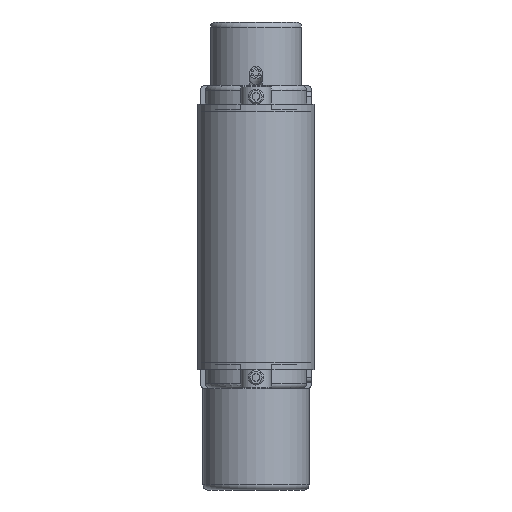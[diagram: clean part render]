
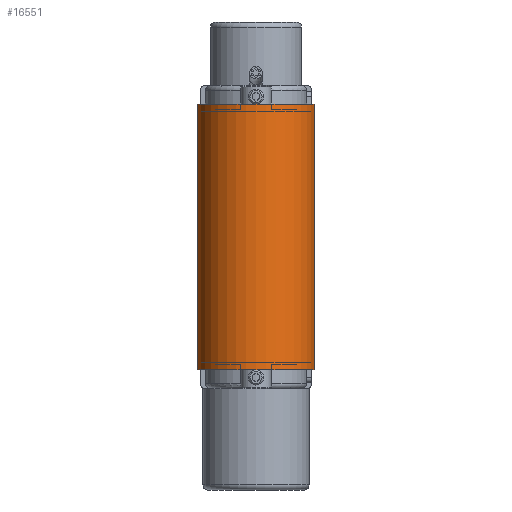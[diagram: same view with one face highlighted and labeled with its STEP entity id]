
A CAD part, front view. The second image highlights one B-rep face of the part: STEP entity #16551.
In plain terms, the highlighted cylindrical face has radius 23.3 mm (diameter 46.6 mm), a partial arc.
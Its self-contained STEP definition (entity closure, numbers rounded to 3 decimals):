
#1198=FACE_OUTER_BOUND('',#2113,.T.);
#2113=EDGE_LOOP('',(#11174,#11175,#11176,#11177));
#3162=LINE('',#24656,#4432);
#3163=LINE('',#24660,#4433);
#4432=VECTOR('',#19823,10.);
#4433=VECTOR('',#19828,10.);
#5649=CIRCLE('',#17631,23.3);
#5652=CIRCLE('',#17637,23.3);
#6634=VERTEX_POINT('',#24639);
#6635=VERTEX_POINT('',#24640);
#6640=VERTEX_POINT('',#24654);
#6641=VERTEX_POINT('',#24658);
#8393=EDGE_CURVE('',#6634,#6635,#5649,.T.);
#8401=EDGE_CURVE('',#6640,#6635,#3162,.T.);
#8402=EDGE_CURVE('',#6640,#6641,#5652,.T.);
#8403=EDGE_CURVE('',#6634,#6641,#3163,.T.);
#11174=ORIENTED_EDGE('',*,*,#8402,.T.);
#11175=ORIENTED_EDGE('',*,*,#8403,.F.);
#11176=ORIENTED_EDGE('',*,*,#8393,.T.);
#11177=ORIENTED_EDGE('',*,*,#8401,.F.);
#15272=CYLINDRICAL_SURFACE('',#17636,23.3);
#16551=ADVANCED_FACE('',(#1198),#15272,.T.);
#17631=AXIS2_PLACEMENT_3D('',#24641,#19808,#19809);
#17636=AXIS2_PLACEMENT_3D('',#24657,#19824,#19825);
#17637=AXIS2_PLACEMENT_3D('',#24659,#19826,#19827);
#19808=DIRECTION('center_axis',(0.,0.,
-1.));
#19809=DIRECTION('ref_axis',(-1.,0.,0.));
#19823=DIRECTION('',(0.,0.,1.));
#19824=DIRECTION('center_axis',(0.,0.,
-1.));
#19825=DIRECTION('ref_axis',(-1.,0.,0.));
#19826=DIRECTION('center_axis',(0.,0.,
1.));
#19827=DIRECTION('ref_axis',(-1.,0.,0.));
#19828=DIRECTION('',(0.,0.,-1.));
#24639=CARTESIAN_POINT('',(23.3,-1070.,52.5));
#24640=CARTESIAN_POINT('',(-23.3,-1070.,52.5));
#24641=CARTESIAN_POINT('Origin',(0.,-1070.,52.5));
#24654=CARTESIAN_POINT('',(-23.3,-1070.,-52.5));
#24656=CARTESIAN_POINT('',(-23.3,-1070.,0.));
#24657=CARTESIAN_POINT('Origin',(0.,-1070.,0.));
#24658=CARTESIAN_POINT('',(23.3,-1070.,-52.5));
#24659=CARTESIAN_POINT('Origin',(0.,-1070.,-52.5));
#24660=CARTESIAN_POINT('',(23.3,-1070.,0.));
